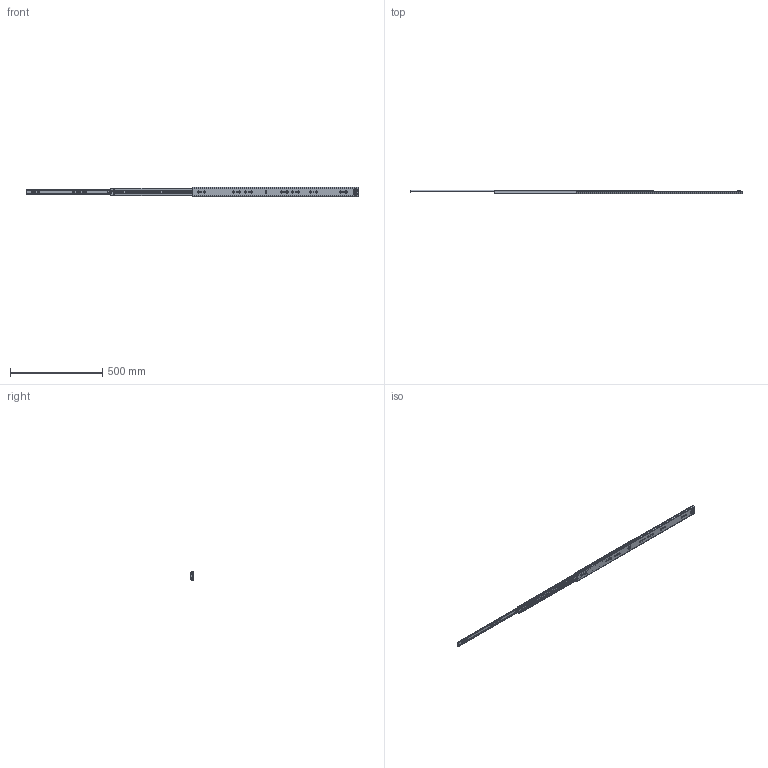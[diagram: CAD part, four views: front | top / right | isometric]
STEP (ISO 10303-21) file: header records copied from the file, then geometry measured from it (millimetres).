
FILE_DESCRIPTION((''),'2;1');
FILE_NAME('1053-02-36_ASM','2022-08-16T',('jishu015'),(''),'PRO/ENGINEER BY PARAMETRIC TECHNOLOGY CORPORATION, 2010280','PRO/ENGINEER BY PARAMETRIC TECHNOLOGY CORPORATION, 2010280','');
FILE_SCHEMA(('CONFIG_CONTROL_DESIGN'));
Products named in the file (16): 1053-02-36WAIKE; 1053WEIJIAO________; 53-WAIKEJIAO-36; 1053-02-36WAIKE_ASM; 1053ZHUTIAO-175________; 53-5-6GANZHU________; 1053ZHUTIAO-175MM_________ASM; 1053-02-18ZHONGGUI________; 53ZHIDIJIAO________; 1053-02-18ZHONGGUI_________ASM; 1053XIAOZHUJIA-14GE________; 1053XIAOZHUJIA-14GE_________ASM; 1053-02-18NEIGUI________; 53BACHA_______; 1053-02-18NEIGUI_________ASM; 1053-02-36_ASM
Assembly tree (99 placements, depth 3):
  1053-02-36_ASM
    1053-02-36WAIKE_ASM
      1053-02-36WAIKE
      1053WEIJIAO________
      53-WAIKEJIAO-36
    1053ZHUTIAO-175MM_________ASM  x2
      1053ZHUTIAO-175________
      53-5-6GANZHU________
    1053-02-18ZHONGGUI_________ASM
      1053-02-18ZHONGGUI________
      53ZHIDIJIAO________
    1053XIAOZHUJIA-14GE_________ASM
      1053XIAOZHUJIA-14GE________
      53-5-6GANZHU________  x68
    1053-02-18NEIGUI_________ASM
      1053-02-18NEIGUI________
      53BACHA_______
Bounding box: 1800 x 18.7 x 53 mm (x, y, z)
Volume: 342337 mm3; surface area: 395011.3 mm2
Topology: 110 solids, 116 shells, 2771 faces, 8042 edges, 5007 vertices
Faces by surface type: cylinder 1228, plane 1068, sphere 218, cone 116, bspline 107, torus 34
Entity records: 88385 total; most frequent: CARTESIAN_POINT 21447, ORIENTED_EDGE 14084, DIRECTION 13923, EDGE_CURVE 7114, AXIS2_PLACEMENT_3D 4879, VERTEX_POINT 4597, VECTOR 4165, LINE 4165
